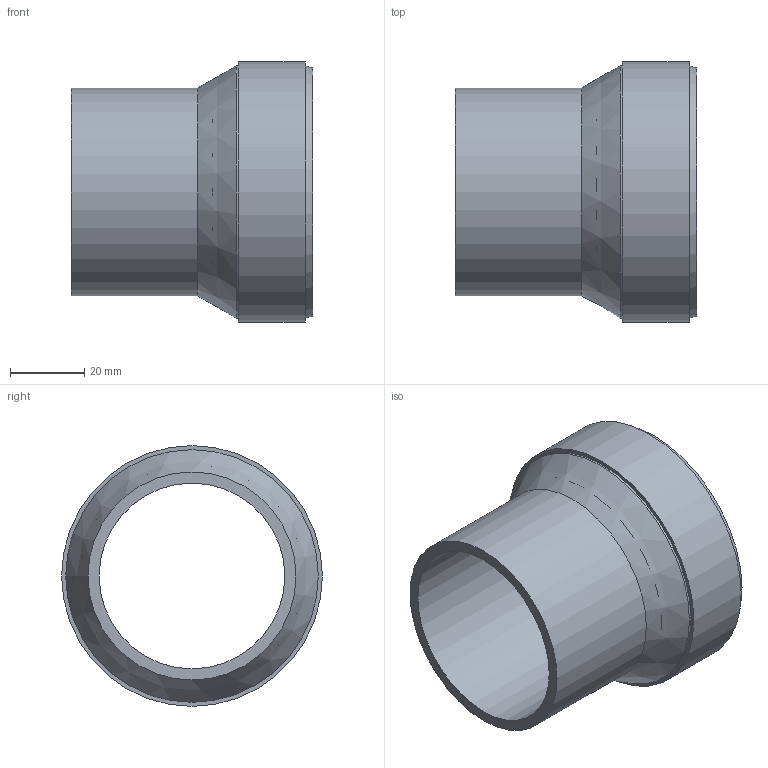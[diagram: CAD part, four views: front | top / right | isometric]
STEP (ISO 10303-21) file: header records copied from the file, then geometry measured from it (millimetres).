
FILE_DESCRIPTION(/* description */ (''),/* implementation_level */ '2;1');
FILE_NAME(/* name */ 'Z:\Geberit\Export\NewStep\PE Übergang mit Innengewinde 2\stp\363724.stp',/* time_stamp */ '2014-04-03T19:13:28+02:00',/* author */ ('nelson'),/* organization */ (''),/* preprocessor_version */ 'ST-DEVELOPER v15.2',/* originating_system */ 'Autodesk Inventor 2014',/* authorisation */ '');
FILE_SCHEMA (('AUTOMOTIVE_DESIGN { 1 0 10303 214 3 1 1 }'));
Length unit declared in the file: millimetre
Products named in the file (1): 363724
Bounding box: 65 x 70.2 x 70.2 mm (x, y, z)
Volume: 49612.6 mm3; surface area: 26423.5 mm2
Topology: 1 solids, 1 shells, 14 faces, 24 edges, 15 vertices
Faces by surface type: cylinder 6, plane 5, cone 3
Full cylindrical faces by diameter (mm): 50 x1, 56 x1, 56.656 x1, 59.614 x1, 68 x1, 70.2 x1
Entity records: 319 total; most frequent: DIRECTION 58, CARTESIAN_POINT 43, AXIS2_PLACEMENT_3D 29, EDGE_LOOP 28, ORIENTED_EDGE 28, FACE_BOUND 18, CIRCLE 14, VERTEX_POINT 14
